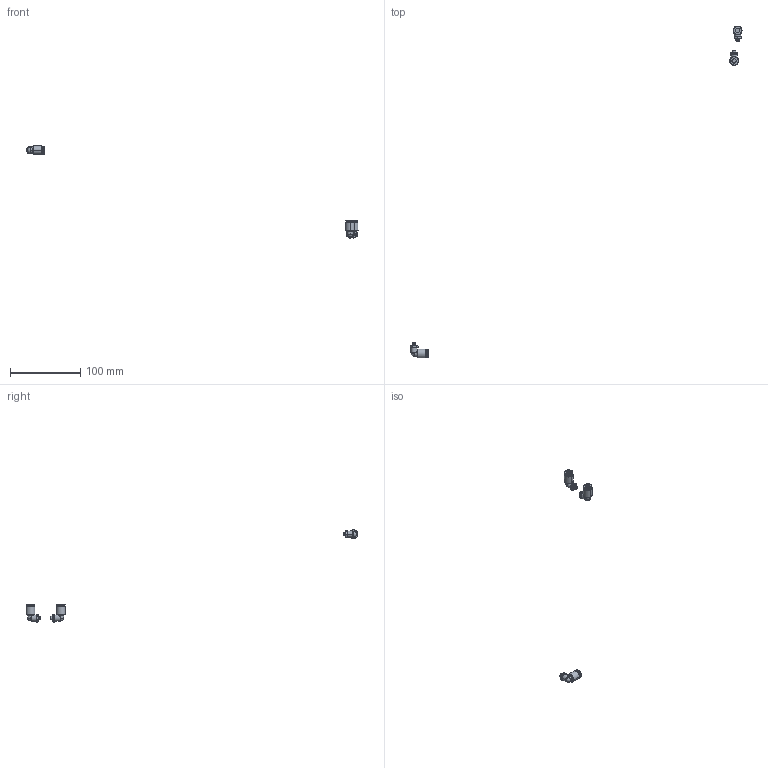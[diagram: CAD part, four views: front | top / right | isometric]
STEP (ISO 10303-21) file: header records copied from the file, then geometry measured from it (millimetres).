
FILE_DESCRIPTION(/* description */ (''),/* implementation_level */ '2;1');
FILE_NAME(/* name */ '11.air-assist#11.1#MSELL6-M5',/* time_stamp */ '2014-12-01T20:19:37+01:00',/* author */ (''),/* organization */ (''),/* preprocessor_version */ 'ST-DEVELOPER v14',/* originating_system */ '',/* authorisation */ '');
FILE_SCHEMA (('AUTOMOTIVE_DESIGN'));
Length unit declared in the file: millimetre
Products named in the file (2): Document; MSELL6-M5
Assembly tree (1 placements, depth 2):
  Document
    MSELL6-M5
Bounding box: 471.02 x 471 x 131.02 mm (x, y, z)
Surface area: 5478.6 mm2 (no closed solid volume)
Topology: 0 solids, 177 shells, 177 faces, 558 edges, 552 vertices
Faces by surface type: bspline 123, plane 54
Entity records: 14422 total; most frequent: CARTESIAN_POINT 7705, B_SPLINE_CURVE_WITH_KNOTS 666, ORIENTED_EDGE 552, PCURVE 552, DEFINITIONAL_REPRESENTATION 552, SURFACE_CURVE 552, EDGE_CURVE 552, VERTEX_POINT 552
